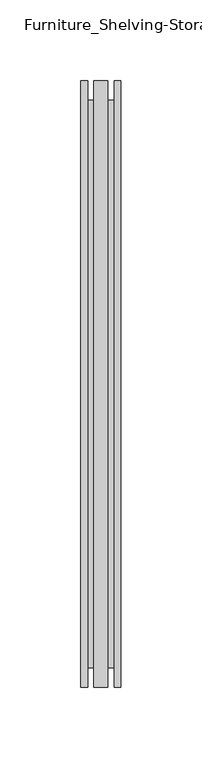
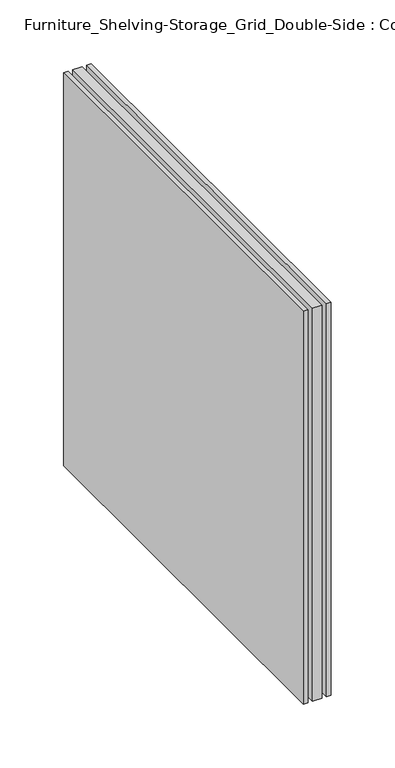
"""IFC4 building model written with IfcOpenShell, lengths in millimetres: furniture geometry, Furniture_Shelving-Storage_Grid_Double-Side : Colour - (Black RAL 9011)."""

from ifc_helpers import new_model, si_unit, origin, place, context, project, spatial, faceted_brep, source, transform, mapped, element, save


def furniture_shelving_storage_grid_double_side_colour_black_ral_d8258e37(model_context):
    return source(origin(), model_context, "Body", "Brep", [
        faceted_brep([(8.2495759, -175.9999642, 24.5), (4.2495759, -175.9999642, 24.5), (4.2495759, 176.0000358, 24.5), (8.2495759, 176.0000358, 24.5), (4.2495759, -187.9999642, 12.5), (4.2495759, 188.0000358, 12.5), (4.2495759, 188.0000358, 388.5), (4.2495759, -187.9999642, 388.5), (4.2495759, -175.9999642, 376.5), (4.2495759, 176.0000358, 376.5), (8.2495759, 188.0000358, 12.5), (12.4995759, 188.0000358, 12.5), (12.4995759, -187.9999642, 12.5), (8.2495759, -187.9999642, 12.5), (8.2495759, -175.9999642, 376.5), (8.2495759, 176.0000358, 376.5), (12.4995759, -187.9999642, 388.5), (8.2495759, -187.9999642, 388.5), (12.4995759, 188.0000358, 388.5), (8.2495759, 188.0000358, 388.5), (-4.2504241, -175.9999642, 24.5), (-8.2504241, -175.9999642, 24.5), (-8.2504241, 176.0000358, 24.5), (-4.2504241, 176.0000358, 24.5), (-8.2504241, -187.9999642, 12.5), (-8.2504241, 188.0000358, 12.5), (-8.2504241, 188.0000358, 388.5), (-8.2504241, -187.9999642, 388.5), (-8.2504241, -175.9999642, 376.5), (-8.2504241, 176.0000358, 376.5), (-4.2504241, 188.0000358, 12.5), (-4.2504241, -187.9999642, 12.5), (-4.2504241, -175.9999642, 376.5), (-4.2504241, 176.0000358, 376.5), (-4.2504241, -187.9999642, 388.5), (-4.2504241, 188.0000358, 388.5), (-12.5004241, -187.9999642, 12.5), (-12.5004241, 188.0000358, 12.5), (-12.5004241, -187.9999642, 388.5), (-12.5004241, 188.0000358, 388.5)], [[[0, 1, 2, 3]], [[4, 5, 6, 7], [8, 9, 2, 1]], [[10, 11, 12, 13]], [[1, 0, 14, 8]], [[8, 14, 15, 9]], [[13, 12, 16, 17]], [[3, 2, 9, 15]], [[17, 16, 18, 19]], [[10, 13, 17, 19], [14, 0, 3, 15]], [[19, 18, 11, 10]], [[16, 12, 11, 18]], [[20, 21, 22, 23]], [[24, 25, 26, 27], [28, 29, 22, 21]], [[30, 5, 4, 31]], [[21, 20, 32, 28]], [[28, 32, 33, 29]], [[31, 4, 7, 34]], [[23, 22, 29, 33]], [[34, 7, 6, 35]], [[30, 31, 34, 35], [32, 20, 23, 33]], [[24, 36, 37, 25]], [[35, 6, 5, 30]], [[38, 39, 37, 36]], [[25, 37, 39, 26]], [[27, 38, 36, 24]], [[26, 39, 38, 27]]]),
    ])


if __name__ == "__main__":
    model = new_model("IFC4")
    model_context = context("Model", 3, world=origin())
    ifc_project = project(units=[si_unit("LENGTHUNIT", "METRE", prefix="MILLI")], contexts=[model_context])
    site = spatial("IfcSite", under=ifc_project)
    building = spatial("IfcBuilding", under=site)
    placement = place(None, origin())
    furniture_shelving_storage_grid_double_side_colour_black_ral_shape = furniture_shelving_storage_grid_double_side_colour_black_ral_d8258e37(model_context)
    element("IfcFurniture", 1, ObjectType="Furniture_Shelving-Storage_Grid_Double-Side : Colour - (Black RAL 9011)", at=placement, inside=building, context=model_context, shape_type="MappedRepresentation", body=[
        mapped(furniture_shelving_storage_grid_double_side_colour_black_ral_shape, transform((0.0, 0.0, 0.0), x_axis=(1.0, 0.0, 0.0), y_axis=(0.0, 1.0, 0.0), z_axis=(0.0, 0.0, 1.0))),
    ])
    save(model, "model.ifc")
